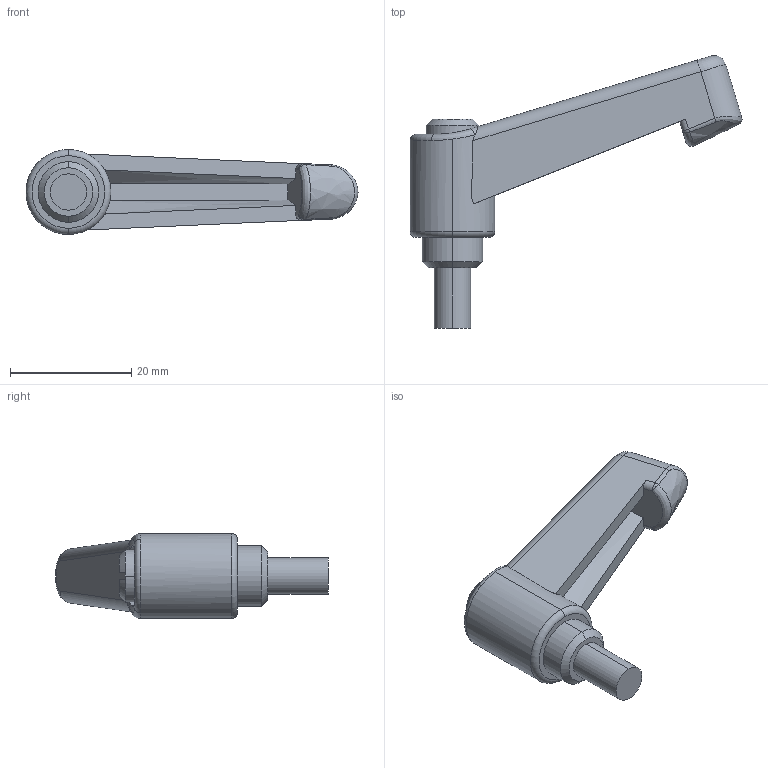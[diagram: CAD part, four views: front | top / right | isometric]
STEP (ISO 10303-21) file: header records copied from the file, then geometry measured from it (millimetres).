
FILE_DESCRIPTION (( 'STEP AP203' ), '1' );
FILE_NAME ('AS-406-45-M6.STEP', '2015-11-23T07:10:44', ( '' ), ( '' ), 'SwSTEP 2.0', 'SolidWorks 2014', '' );
FILE_SCHEMA (( 'CONFIG_CONTROL_DESIGN' ));
Length unit declared in the file: millimetre
Products named in the file (1): AS-406-45-M6
Bounding box: 54.78 x 45 x 14 mm (x, y, z)
Volume: 7186.4 mm3; surface area: 3639.8 mm2
Topology: 1 solids, 1 shells, 59 faces, 140 edges, 86 vertices
Faces by surface type: plane 19, cylinder 17, bspline 11, torus 4, cone 4, sphere 4
Entity records: 2287 total; most frequent: CARTESIAN_POINT 946, ORIENTED_EDGE 280, DIRECTION 249, EDGE_CURVE 140, AXIS2_PLACEMENT_3D 103, VERTEX_POINT 86, EDGE_LOOP 62, FACE_OUTER_BOUND 59
